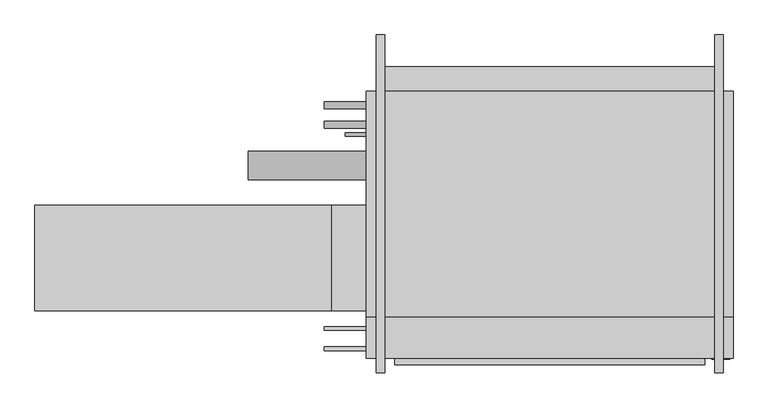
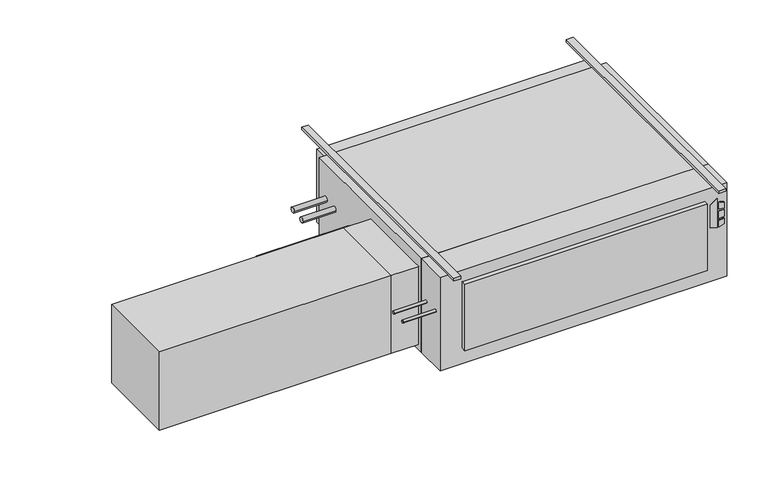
"""IFC4 building model written with IfcOpenShell, lengths in millimetres: proxy geometry."""

from ifc_helpers import new_model, si_unit, point, frame, frame_2d, origin, origin_with_axes, place, context, project, spatial, polyline, circle_curve, trimmed, segment, composite_curve, outline, extrude, source, transform, mapped, element, save


def mechanical_equipment_a815f6c8(model_context):
    return source(origin(), model_context, "Body", "SweptSolid", [
        extrude(outline(polyline([(-193.2519297, 735.0868862), (-203.2, 767.2602728), (-61.0290756, 767.2602728), (-84.0510817, 735.0868862), (-193.2519297, 735.0868862)])), frame((0.0, -797.052, 0.0), z_axis=(0.0, 1.0, 0.0), x_axis=(0.0, 0.0, 1.0)), (0.0, 0.0, 1.0), 3.175),
        extrude(outline(polyline([(-114.2526443, 774.0186058), (-117.4550368, 800.1), (-88.2261958, 800.1), (-80.1617807, 774.0186058), (-114.2526443, 774.0186058)])), frame((0.0, -797.052, 0.0), z_axis=(0.0, 1.0, 0.0), x_axis=(0.0, 0.0, 1.0)), (0.0, 0.0, 1.0), 3.175),
        extrude(outline(polyline([(-166.1161712, 800.1), (-169.7816721, 774.0186058), (-203.2, 774.0186058), (-194.5657628, 800.1), (-166.1161712, 800.1)])), frame((0.0, -797.052, 0.0), z_axis=(0.0, 1.0, 0.0), x_axis=(0.0, 0.0, 1.0)), (0.0, 0.0, 1.0), 3.175),
        extrude(outline(polyline([(-126.8010097, 800.1), (-124.5191834, 774.0186058), (-160.4567319, 774.0186058), (-157.7154669, 800.1), (-126.8010097, 800.1)])), frame((0.0, -797.052, 0.0), z_axis=(0.0, 1.0, 0.0), x_axis=(0.0, 0.0, 1.0)), (0.0, 0.0, 1.0), 3.175),
        extrude(outline(polyline([(812.8, -793.877), (-508.0, -793.877), (-508.0, -644.525), (812.8, -644.525), (812.8, -793.877)])), frame((0.0, 0.0, -457.2), z_axis=(0.0, 0.0, 1.0), x_axis=(1.0, 0.0, 0.0)), (0.0, 0.0, 1.0), 457.2),
        extrude(outline(polyline([(711.2, -816.229), (-406.4, -816.229), (-406.4, -793.877), (711.2, -793.877), (711.2, -816.229)])), frame((0.0, 0.0, -381.0), z_axis=(0.0, 0.0, 1.0), x_axis=(1.0, 0.0, 0.0)), (0.0, 0.0, 1.0), 323.85),
        extrude(outline(polyline([(-1701.8, -622.3), (-1701.8, -241.3), (-635.0, -241.3), (-635.0, -622.3), (-1701.8, -622.3)])), frame((0.0, 0.0, -431.8), z_axis=(0.0, 0.0, 1.0), x_axis=(1.0, 0.0, 0.0)), (0.0, 0.0, 1.0), 381.0),
        extrude(outline(polyline([(-508.0, -241.3), (-508.0, -622.3), (-635.0, -622.3), (-635.0, -241.3), (-508.0, -241.3)])), frame((0.0, 0.0, -431.8), z_axis=(0.0, 0.0, 1.0), x_axis=(1.0, 0.0, 0.0)), (0.0, 0.0, 1.0), 381.0),
        extrude(outline(composite_curve([segment(trimmed(circle_curve(frame_2d((-758.825, -184.15)), 6.35), [point((-765.175, -184.15))], [point((-752.475, -184.15))], False, "CARTESIAN"), True, "CONTINUOUS"), segment(trimmed(circle_curve(frame_2d((-758.825, -184.15)), 6.35), [point((-752.475, -184.15))], [point((-765.175, -184.15))], False, "CARTESIAN"), True, "CONTINUOUS")], self_intersect=False)), frame((-660.4, 0.0, 0.0), z_axis=(1.0, 0.0, 0.0), x_axis=(0.0, 1.0, 0.0)), (0.0, 0.0, 1.0), 152.4),
        extrude(outline(composite_curve([segment(trimmed(circle_curve(frame_2d((-685.8, -184.15)), 6.35), [point((-692.15, -184.15))], [point((-679.45, -184.15))], False, "CARTESIAN"), True, "CONTINUOUS"), segment(trimmed(circle_curve(frame_2d((-685.8, -184.15)), 6.35), [point((-679.45, -184.15))], [point((-692.15, -184.15))], False, "CARTESIAN"), True, "CONTINUOUS")], self_intersect=False)), frame((-660.4, 0.0, 0.0), z_axis=(1.0, 0.0, 0.0), x_axis=(0.0, 1.0, 0.0)), (0.0, 0.0, 1.0), 152.4),
        extrude(outline(composite_curve([segment(trimmed(circle_curve(frame_2d((-98.4896516, -228.6360165)), 50.8), [point((-149.2896516, -228.6360165))], [point((-47.6896516, -228.6360165))], False, "CARTESIAN"), True, "CONTINUOUS"), segment(trimmed(circle_curve(frame_2d((-98.4896516, -228.6360165)), 50.8), [point((-47.6896516, -228.6360165))], [point((-149.2896516, -228.6360165))], False, "CARTESIAN"), True, "CONTINUOUS")], self_intersect=False)), frame((-933.45, 0.0, 0.0), z_axis=(1.0, 0.0, 0.0), x_axis=(0.0, 1.0, 0.0)), (0.0, 0.0, 1.0), 425.45),
        extrude(outline(composite_curve([segment(trimmed(circle_curve(frame_2d((47.625, -177.8)), 12.7), [point((34.925, -177.8))], [point((60.325, -177.8))], False, "CARTESIAN"), True, "CONTINUOUS"), segment(trimmed(circle_curve(frame_2d((47.625, -177.8)), 12.7), [point((60.325, -177.8))], [point((34.925, -177.8))], False, "CARTESIAN"), True, "CONTINUOUS")], self_intersect=False)), frame((-660.4, 0.0, 0.0), z_axis=(1.0, 0.0, 0.0), x_axis=(0.0, 1.0, 0.0)), (0.0, 0.0, 1.0), 152.4),
        extrude(outline(composite_curve([segment(trimmed(circle_curve(frame_2d((117.475, -171.45)), 12.7), [point((104.775, -171.45))], [point((130.175, -171.45))], False, "CARTESIAN"), True, "CONTINUOUS"), segment(trimmed(circle_curve(frame_2d((117.475, -171.45)), 12.7), [point((130.175, -171.45))], [point((104.775, -171.45))], False, "CARTESIAN"), True, "CONTINUOUS")], self_intersect=False)), frame((-660.4, 0.0, 0.0), z_axis=(1.0, 0.0, 0.0), x_axis=(0.0, 1.0, 0.0)), (0.0, 0.0, 1.0), 152.4),
        extrude(outline(composite_curve([segment(trimmed(circle_curve(frame_2d((12.7, -409.575)), 6.35), [point((6.35, -409.575))], [point((19.05, -409.575))], False, "CARTESIAN"), True, "CONTINUOUS"), segment(trimmed(circle_curve(frame_2d((12.7, -409.575)), 6.35), [point((19.05, -409.575))], [point((6.35, -409.575))], False, "CARTESIAN"), True, "CONTINUOUS")], self_intersect=False)), frame((-584.2, 0.0, 0.0), z_axis=(1.0, 0.0, 0.0), x_axis=(0.0, 1.0, 0.0)), (0.0, 0.0, 1.0), 76.2),
        extrude(outline(polyline([(812.8, 168.275), (812.8, -644.525), (-508.0, -644.525), (-508.0, 168.275), (812.8, 168.275)])), frame((0.0, 0.0, -457.2), z_axis=(0.0, 0.0, 1.0), x_axis=(1.0, 0.0, 0.0)), (0.0, 0.0, 1.0), 457.2),
        extrude(outline(polyline([(-469.9, 257.175), (774.7, 257.175), (774.7, 168.275), (-469.9, 168.275), (-469.9, 257.175)])), frame((0.0, 0.0, -381.0), z_axis=(0.0, 0.0, 1.0), x_axis=(1.0, 0.0, 0.0)), (0.0, 0.0, 1.0), 355.6),
        extrude(outline(polyline([(-441.325, 371.475), (-441.325, -844.677), (-473.075, -844.677), (-473.075, 371.475), (-441.325, 371.475)])), origin_with_axes(), (0.0, 0.0, 1.0), 12.7),
        extrude(outline(polyline([(777.875, 371.475), (777.875, -844.677), (746.125, -844.677), (746.125, 371.475), (777.875, 371.475)])), origin_with_axes(), (0.0, 0.0, 1.0), 12.7),
    ])


if __name__ == "__main__":
    model = new_model("IFC4")
    model_context = context("Model", 3, world=origin())
    ifc_project = project(units=[si_unit("LENGTHUNIT", "METRE", prefix="MILLI")], contexts=[model_context])
    site = spatial("IfcSite", under=ifc_project)
    building = spatial("IfcBuilding", under=site)
    placement = place(None, origin())
    mechanical_equipment_shape = mechanical_equipment_a815f6c8(model_context)
    element("IfcBuildingElementProxy", 1, Name="High_Capacity_Horizontal_Cabinet_Fan_Coil_Unit_-_HTY_-_IEC_-_4-Pipe_WO-Attenuator_LH Side_2022 : Size 18 - 115v/60Hz/1Ph - 4/1 Coil - 4\" AirIn", ObjectType="High_Capacity_Horizontal_Cabinet_Fan_Coil_Unit_-_HTY_-_IEC_-_4-Pipe_WO-Attenuator_LH Side_2022 : Size 18 - 115v/60Hz/1Ph - 4/1 Coil - 4\" AirIn", at=placement, inside=building, context=model_context, shape_type="MappedRepresentation", body=[
        mapped(mechanical_equipment_shape, transform((0.0, 0.0, 0.0), x_axis=(1.0, 0.0, 0.0), y_axis=(0.0, 1.0, 0.0), z_axis=(0.0, 0.0, 1.0))),
    ])
    save(model, "model.ifc")
